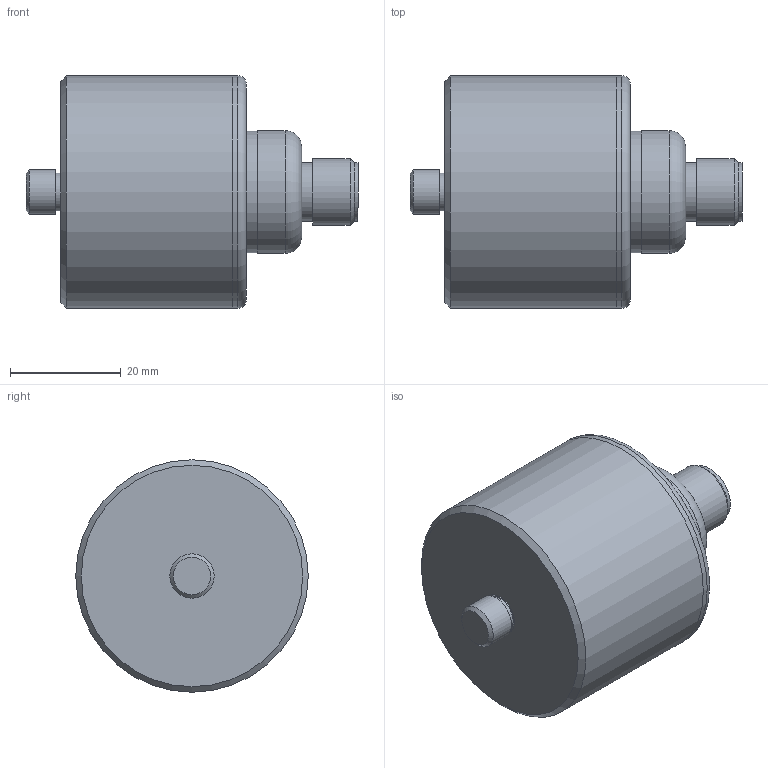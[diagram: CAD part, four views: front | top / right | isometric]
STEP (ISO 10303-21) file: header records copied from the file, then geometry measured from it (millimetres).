
FILE_DESCRIPTION(/* description */ (''),/* implementation_level */ '2;1');
FILE_NAME(/* name */ 'Z:\Engineering\Drawings\3D Library\Assemblies\Website\HS-173RXXX5408.stp',/* time_stamp */ '2023-03-25T13:45:25+00:00',/* author */ ('Ricardo.Peneda'),/* organization */ (''),/* preprocessor_version */ 'ST-DEVELOPER v18.1',/* originating_system */ 'Autodesk Inventor 2021',/* authorisation */ '');
FILE_SCHEMA (('AUTOMOTIVE_DESIGN { 1 0 10303 214 3 1 1 }'));
Length unit declared in the file: inch
Products named in the file (1): HS-173RXXX5408_Shrinkwrap_1
Bounding box: 59.99 x 42 x 42 mm (x, y, z)
Volume: 49775.8 mm3; surface area: 12457.9 mm2
Topology: 4 solids, 4 shells, 53 faces, 129 edges, 97 vertices
Faces by surface type: cylinder 21, plane 21, cone 7, torus 2, sphere 2
Full cylindrical faces by diameter (mm): 5 x1, 5.359 x1, 6.35 x1, 6.8 x1, 7 x1, 7.5 x1, 8 x1, 9.4 x2, 10.496 x1, 10.5 x1, 12 x1, 18 x1, 19.95 x1, 20 x1, 22 x1, 22.2 x1, 40 x1, 42 x2
Entity records: 1752 total; most frequent: DIRECTION 333, CARTESIAN_POINT 278, ORIENTED_EDGE 254, AXIS2_PLACEMENT_3D 152, EDGE_CURVE 127, CIRCLE 98, VERTEX_POINT 97, EDGE_LOOP 70
